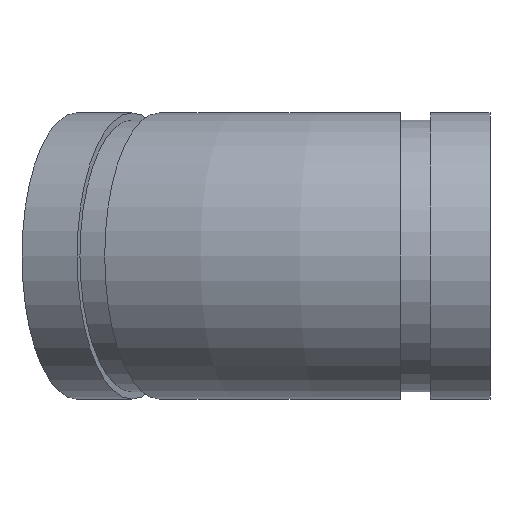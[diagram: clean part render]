
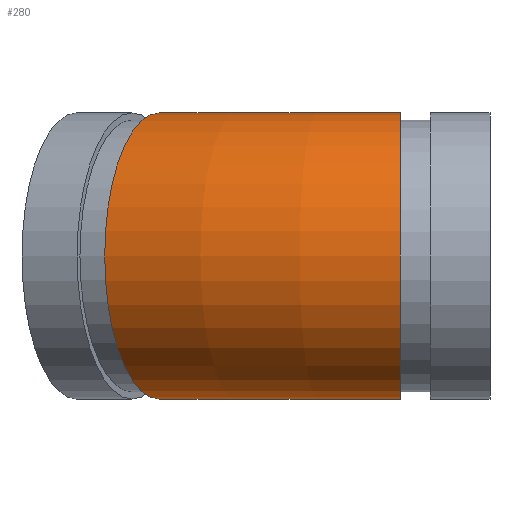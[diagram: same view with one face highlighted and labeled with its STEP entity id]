
A CAD part, left-side view. The second image highlights one B-rep face of the part: STEP entity #280.
In plain terms, the highlighted toroidal (fillet/blend) face has major radius 167.535 mm and minor radius 38.1 mm.
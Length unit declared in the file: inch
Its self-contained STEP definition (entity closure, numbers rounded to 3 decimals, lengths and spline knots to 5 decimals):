
#46=TOROIDAL_SURFACE('',#335,6.59587,1.5);
#78=FACE_OUTER_BOUND('',#96,.T.);
#96=EDGE_LOOP('',(#221,#222,#223,#224,#225,#226));
#105=CIRCLE('',#308,1.5);
#106=CIRCLE('',#309,1.5);
#116=CIRCLE('',#323,1.5);
#117=CIRCLE('',#324,1.5);
#126=CIRCLE('',#336,5.09587);
#131=VERTEX_POINT('',#476);
#132=VERTEX_POINT('',#477);
#142=VERTEX_POINT('',#504);
#143=VERTEX_POINT('',#505);
#155=EDGE_CURVE('',#131,#132,#105,.T.);
#156=EDGE_CURVE('',#132,#131,#106,.T.);
#168=EDGE_CURVE('',#142,#143,#116,.T.);
#169=EDGE_CURVE('',#143,#142,#117,.T.);
#178=EDGE_CURVE('',#132,#143,#126,.T.);
#221=ORIENTED_EDGE('',*,*,#155,.T.);
#222=ORIENTED_EDGE('',*,*,#178,.T.);
#223=ORIENTED_EDGE('',*,*,#169,.T.);
#224=ORIENTED_EDGE('',*,*,#168,.T.);
#225=ORIENTED_EDGE('',*,*,#178,.F.);
#226=ORIENTED_EDGE('',*,*,#156,.T.);
#280=ADVANCED_FACE('',(#78),#46,.T.);
#308=AXIS2_PLACEMENT_3D('',#478,#364,#365);
#309=AXIS2_PLACEMENT_3D('',#479,#366,#367);
#323=AXIS2_PLACEMENT_3D('',#506,#396,#397);
#324=AXIS2_PLACEMENT_3D('',#507,#398,#399);
#335=AXIS2_PLACEMENT_3D('',#525,#420,#421);
#336=AXIS2_PLACEMENT_3D('',#526,#422,#423);
#364=DIRECTION('center_axis',(-0.383,-0.924,0.));
#365=DIRECTION('ref_axis',(0.924,-0.383,0.));
#366=DIRECTION('center_axis',(-0.383,-0.924,0.));
#367=DIRECTION('ref_axis',(0.924,-0.383,0.));
#396=DIRECTION('center_axis',(0.,1.,0.));
#397=DIRECTION('ref_axis',(1.,0.,0.));
#398=DIRECTION('center_axis',(0.,1.,0.));
#399=DIRECTION('ref_axis',(1.,0.,0.));
#420=DIRECTION('center_axis',(0.,0.,-1.));
#421=DIRECTION('ref_axis',(-1.,0.,0.));
#422=DIRECTION('center_axis',(0.,0.,1.));
#423=DIRECTION('ref_axis',(-1.,0.,0.));
#476=CARTESIAN_POINT('',(0.50208,3.46213,1.5));
#477=CARTESIAN_POINT('',(1.8879,2.8881,0.));
#478=CARTESIAN_POINT('Origin',(0.50208,3.46213,0.));
#479=CARTESIAN_POINT('Origin',(0.50208,3.46213,0.));
#504=CARTESIAN_POINT('',(0.,0.938,1.5));
#505=CARTESIAN_POINT('',(1.5,0.938,0.));
#506=CARTESIAN_POINT('Origin',(0.,0.938,0.));
#507=CARTESIAN_POINT('Origin',(0.,0.938,0.));
#525=CARTESIAN_POINT('Origin',(6.59587,0.938,0.));
#526=CARTESIAN_POINT('Origin',(6.59587,0.938,0.));
